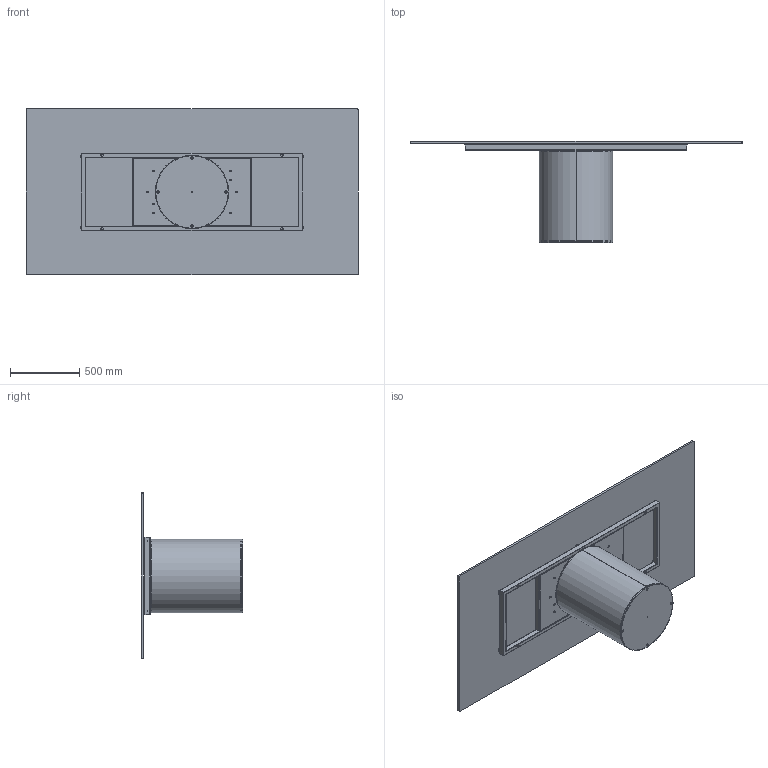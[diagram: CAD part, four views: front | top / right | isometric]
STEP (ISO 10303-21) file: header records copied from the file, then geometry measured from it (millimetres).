
FILE_DESCRIPTION (( 'STEP AP203' ), '1' );
FILE_NAME ('CI23G.STEP', '2024-08-08T07:23:27', ( '' ), ( '' ), 'SwSTEP 2.0', 'SolidWorks 2022', '' );
FILE_SCHEMA (( 'CONFIG_CONTROL_DESIGN' ));
Length unit declared in the file: millimetre
Products named in the file (13): TTAV01-05-TELAIO UNIVERSALE X TAVOLI 180 240cm; CI23G; M8xXXmm_M8x14mm; COLLO TELAIO UNIVERSALE TTAV01 CON FERRAMENTA_MTG TOP CRISTALLO VERNICIATO-CERAMICA; C2B000000-03-CILINDRO BASE D.530mm_Normale; C2B000000_02-01-ZAVORRA IN FERRO D.530mm; TTAV01_02-05-VASSOIO IRRIGIDIMENTO TELAIO UNIVERSALE; TTAV01_01-05-TELAIO UNIVERSALE X TAVOLI 180 240cm; 434070-00-PIEDINO TPV GOMMA NERO D. 30x8max18_filo estetico; rondella M8_8X24; M8xXXmm_hex_M8X20mm; C2B000000_01-00-struttura cilindro D.530mm; C2XCRXX-00-Piani Rettangolari Cristallo_23 2400x1200
Assembly tree (26 placements, depth 4):
  CI23G
    C2B000000-03-CILINDRO BASE D.530mm_Normale
      C2B000000_01-00-struttura cilindro D.530mm
      C2B000000_02-01-ZAVORRA IN FERRO D.530mm
      M8xXXmm_hex_M8X20mm  x4
    COLLO TELAIO UNIVERSALE TTAV01 CON FERRAMENTA_MTG TOP CRISTALLO VERNICIATO-CERAMICA
      TTAV01-05-TELAIO UNIVERSALE X TAVOLI 180 240cm
        TTAV01_02-05-VASSOIO IRRIGIDIMENTO TELAIO UNIVERSALE
        TTAV01_01-05-TELAIO UNIVERSALE X TAVOLI 180 240cm
      434070-00-PIEDINO TPV GOMMA NERO D. 30x8max18_filo estetico  x6
    rondella M8_8X24  x4
    M8xXXmm_M8x14mm  x4
    C2XCRXX-00-Piani Rettangolari Cristallo_23 2400x1200
Bounding box: 2400 x 735 x 1200 mm (x, y, z)
Volume: 51898392.3 mm3; surface area: 10987411.1 mm2
Topology: 32 solids, 32 shells, 756 faces, 1724 edges, 1014 vertices
Faces by surface type: plane 320, cylinder 258, torus 80, cone 76, sphere 22
Entity records: 15302 total; most frequent: DIRECTION 2495, CARTESIAN_POINT 2353, ORIENTED_EDGE 2200, EDGE_CURVE 1100, AXIS2_PLACEMENT_3D 937, VERTEX_POINT 677, VECTOR 621, LINE 621
